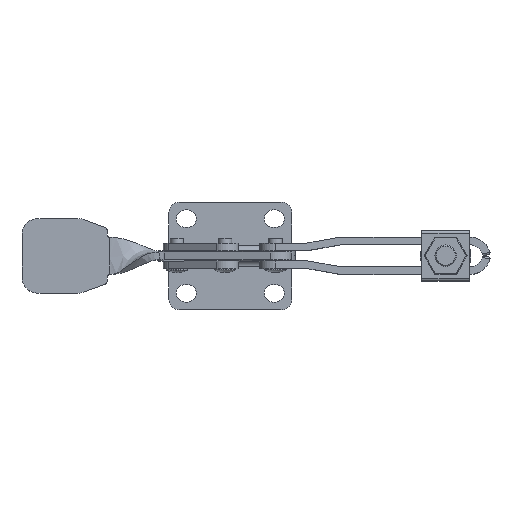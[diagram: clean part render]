
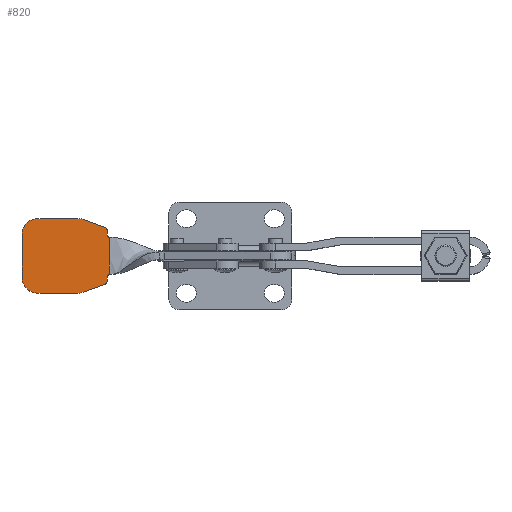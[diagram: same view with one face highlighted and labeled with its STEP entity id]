
A CAD part, top view. The second image highlights one B-rep face of the part: STEP entity #820.
In plain terms, the highlighted planar face has unit normal (0, 0, 1).
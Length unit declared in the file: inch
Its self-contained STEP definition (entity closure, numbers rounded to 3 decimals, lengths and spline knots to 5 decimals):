
#27=B_SPLINE_CURVE_WITH_KNOTS('',3,(#7028,#7029,#7030,#7031),.UNSPECIFIED.,
.F.,.F.,(4,4),(0.,1.),.UNSPECIFIED.);
#28=B_SPLINE_CURVE_WITH_KNOTS('',3,(#7064,#7065,#7066,#7067),.UNSPECIFIED.,
.F.,.F.,(4,4),(0.,1.),.UNSPECIFIED.);
#576=CIRCLE('',#4960,0.025);
#577=CIRCLE('',#4961,0.05);
#578=CIRCLE('',#4962,0.187);
#579=CIRCLE('',#4963,0.187);
#580=CIRCLE('',#4964,0.187);
#581=CIRCLE('',#4965,0.187);
#582=CIRCLE('',#4966,0.05);
#583=CIRCLE('',#4967,0.025);
#820=ADVANCED_FACE('',(#1226),#1084,.F.);
#1084=PLANE('',#4968);
#1226=FACE_OUTER_BOUND('',#1489,.T.);
#1489=EDGE_LOOP('',(#1961,#1962,#1963,#1964,#1965,#1966,#1967,#1968,#1969,
#1970,#1971,#1972,#1973,#1974,#1975,#1976,#1977));
#1961=ORIENTED_EDGE('',*,*,#3618,.F.);
#1962=ORIENTED_EDGE('',*,*,#3619,.F.);
#1963=ORIENTED_EDGE('',*,*,#3620,.F.);
#1964=ORIENTED_EDGE('',*,*,#3621,.T.);
#1965=ORIENTED_EDGE('',*,*,#3622,.F.);
#1966=ORIENTED_EDGE('',*,*,#3623,.T.);
#1967=ORIENTED_EDGE('',*,*,#3624,.F.);
#1968=ORIENTED_EDGE('',*,*,#3625,.T.);
#1969=ORIENTED_EDGE('',*,*,#3626,.T.);
#1970=ORIENTED_EDGE('',*,*,#3627,.T.);
#1971=ORIENTED_EDGE('',*,*,#3628,.T.);
#1972=ORIENTED_EDGE('',*,*,#3629,.T.);
#1973=ORIENTED_EDGE('',*,*,#3630,.T.);
#1974=ORIENTED_EDGE('',*,*,#3631,.T.);
#1975=ORIENTED_EDGE('',*,*,#3632,.F.);
#1976=ORIENTED_EDGE('',*,*,#3633,.F.);
#1977=ORIENTED_EDGE('',*,*,#3634,.F.);
#3149=VERTEX_POINT('',#7032);
#3150=VERTEX_POINT('',#7033);
#3151=VERTEX_POINT('',#7035);
#3152=VERTEX_POINT('',#7037);
#3153=VERTEX_POINT('',#7039);
#3154=VERTEX_POINT('',#7041);
#3155=VERTEX_POINT('',#7043);
#3156=VERTEX_POINT('',#7045);
#3157=VERTEX_POINT('',#7047);
#3158=VERTEX_POINT('',#7049);
#3159=VERTEX_POINT('',#7051);
#3160=VERTEX_POINT('',#7053);
#3161=VERTEX_POINT('',#7055);
#3162=VERTEX_POINT('',#7057);
#3163=VERTEX_POINT('',#7059);
#3164=VERTEX_POINT('',#7061);
#3165=VERTEX_POINT('',#7063);
#3618=EDGE_CURVE('',#3149,#3150,#27,.T.);
#3619=EDGE_CURVE('',#3151,#3149,#576,.T.);
#3620=EDGE_CURVE('',#3152,#3151,#4227,.T.);
#3621=EDGE_CURVE('',#3152,#3153,#577,.T.);
#3622=EDGE_CURVE('',#3154,#3153,#4228,.T.);
#3623=EDGE_CURVE('',#3154,#3155,#578,.T.);
#3624=EDGE_CURVE('',#3156,#3155,#4229,.T.);
#3625=EDGE_CURVE('',#3156,#3157,#579,.T.);
#3626=EDGE_CURVE('',#3157,#3158,#4230,.T.);
#3627=EDGE_CURVE('',#3158,#3159,#580,.T.);
#3628=EDGE_CURVE('',#3159,#3160,#4231,.T.);
#3629=EDGE_CURVE('',#3160,#3161,#581,.T.);
#3630=EDGE_CURVE('',#3161,#3162,#4232,.T.);
#3631=EDGE_CURVE('',#3162,#3163,#582,.T.);
#3632=EDGE_CURVE('',#3164,#3163,#4233,.T.);
#3633=EDGE_CURVE('',#3165,#3164,#583,.T.);
#3634=EDGE_CURVE('',#3150,#3165,#28,.T.);
#4227=LINE('',#7036,#4579);
#4228=LINE('',#7040,#4580);
#4229=LINE('',#7044,#4581);
#4230=LINE('',#7048,#4582);
#4231=LINE('',#7052,#4583);
#4232=LINE('',#7056,#4584);
#4233=LINE('',#7060,#4585);
#4579=VECTOR('',#5611,1.);
#4580=VECTOR('',#5614,1.);
#4581=VECTOR('',#5617,1.);
#4582=VECTOR('',#5620,1.);
#4583=VECTOR('',#5623,1.);
#4584=VECTOR('',#5626,1.);
#4585=VECTOR('',#5629,1.);
#4960=AXIS2_PLACEMENT_3D('',#7034,#5609,#5610);
#4961=AXIS2_PLACEMENT_3D('',#7038,#5612,#5613);
#4962=AXIS2_PLACEMENT_3D('',#7042,#5615,#5616);
#4963=AXIS2_PLACEMENT_3D('',#7046,#5618,#5619);
#4964=AXIS2_PLACEMENT_3D('',#7050,#5621,#5622);
#4965=AXIS2_PLACEMENT_3D('',#7054,#5624,#5625);
#4966=AXIS2_PLACEMENT_3D('',#7058,#5627,#5628);
#4967=AXIS2_PLACEMENT_3D('',#7062,#5630,#5631);
#4968=AXIS2_PLACEMENT_3D('',#7068,#5632,#5633);
#5609=DIRECTION('',(0.,0.,1.));
#5610=DIRECTION('',(0.,1.,0.));
#5611=DIRECTION('',(0.,-1.,0.));
#5612=DIRECTION('',(0.,0.,1.));
#5613=DIRECTION('',(0.,1.,0.));
#5614=DIRECTION('',(0.94,-0.342,0.));
#5615=DIRECTION('',(0.,0.,1.));
#5616=DIRECTION('',(0.,1.,0.));
#5617=DIRECTION('',(1.,0.,0.));
#5618=DIRECTION('',(0.,0.,1.));
#5619=DIRECTION('',(0.,1.,0.));
#5620=DIRECTION('',(0.,-1.,0.));
#5621=DIRECTION('',(0.,0.,1.));
#5622=DIRECTION('',(0.,1.,0.));
#5623=DIRECTION('',(1.,0.,0.));
#5624=DIRECTION('',(0.,0.,1.));
#5625=DIRECTION('',(0.,1.,0.));
#5626=DIRECTION('',(0.94,0.342,0.));
#5627=DIRECTION('',(0.,0.,1.));
#5628=DIRECTION('',(0.,1.,0.));
#5629=DIRECTION('',(0.,-1.,0.));
#5630=DIRECTION('',(0.,0.,1.));
#5631=DIRECTION('',(0.,1.,0.));
#5632=DIRECTION('',(0.,0.,-1.));
#5633=DIRECTION('',(0.,1.,0.));
#7028=CARTESIAN_POINT('',(-0.66244,0.2184,0.82624));
#7029=CARTESIAN_POINT('',(-0.66244,0.13899,0.82624));
#7030=CARTESIAN_POINT('',(-0.66244,0.05958,0.82624));
#7031=CARTESIAN_POINT('',(-0.66244,-0.01983,0.82624));
#7032=CARTESIAN_POINT('',(-0.66244,0.2184,0.82624));
#7033=CARTESIAN_POINT('',(-0.66244,-0.01983,0.82624));
#7034=CARTESIAN_POINT('',(-0.66244,0.2434,0.82624));
#7035=CARTESIAN_POINT('',(-0.68744,0.2434,0.82624));
#7036=CARTESIAN_POINT('',(-0.68744,0.28847,0.82624));
#7037=CARTESIAN_POINT('',(-0.68744,0.28847,0.82624));
#7038=CARTESIAN_POINT('',(-0.73744,0.28847,0.82624));
#7039=CARTESIAN_POINT('',(-0.72034,0.33545,0.82624));
#7040=CARTESIAN_POINT('',(-0.96946,0.42612,0.82624));
#7041=CARTESIAN_POINT('',(-0.96946,0.42612,0.82624));
#7042=CARTESIAN_POINT('',(-1.03342,0.2504,0.82624));
#7043=CARTESIAN_POINT('',(-1.03342,0.4374,0.82624));
#7044=CARTESIAN_POINT('',(-1.50044,0.4374,0.82624));
#7045=CARTESIAN_POINT('',(-1.50044,0.4374,0.82624));
#7046=CARTESIAN_POINT('',(-1.50044,0.2504,0.82624));
#7047=CARTESIAN_POINT('',(-1.68744,0.2504,0.82624));
#7048=CARTESIAN_POINT('',(-1.68744,3.7814,0.82624));
#7049=CARTESIAN_POINT('',(-1.68744,-0.2496,0.82624));
#7050=CARTESIAN_POINT('',(-1.50044,-0.2496,0.82624));
#7051=CARTESIAN_POINT('',(-1.50044,-0.4366,0.82624));
#7052=CARTESIAN_POINT('',(-1.50044,-0.4366,0.82624));
#7053=CARTESIAN_POINT('',(-1.03342,-0.4366,0.82624));
#7054=CARTESIAN_POINT('',(-1.03342,-0.2496,0.82624));
#7055=CARTESIAN_POINT('',(-0.96946,-0.42532,0.82624));
#7056=CARTESIAN_POINT('',(-0.96946,-0.42532,0.82624));
#7057=CARTESIAN_POINT('',(-0.72034,-0.33465,0.82624));
#7058=CARTESIAN_POINT('',(-0.73744,-0.28767,0.82624));
#7059=CARTESIAN_POINT('',(-0.68744,-0.28767,0.82624));
#7060=CARTESIAN_POINT('',(-0.68744,-0.2436,0.82624));
#7061=CARTESIAN_POINT('',(-0.68744,-0.2436,0.82624));
#7062=CARTESIAN_POINT('',(-0.66244,-0.2436,0.82624));
#7063=CARTESIAN_POINT('',(-0.66244,-0.2186,0.82624));
#7064=CARTESIAN_POINT('',(-0.66244,-0.01983,0.82624));
#7065=CARTESIAN_POINT('',(-0.66244,-0.08609,0.82624));
#7066=CARTESIAN_POINT('',(-0.66244,-0.15234,0.82624));
#7067=CARTESIAN_POINT('',(-0.66244,-0.2186,0.82624));
#7068=CARTESIAN_POINT('',(-1.68744,3.7814,0.82624));
